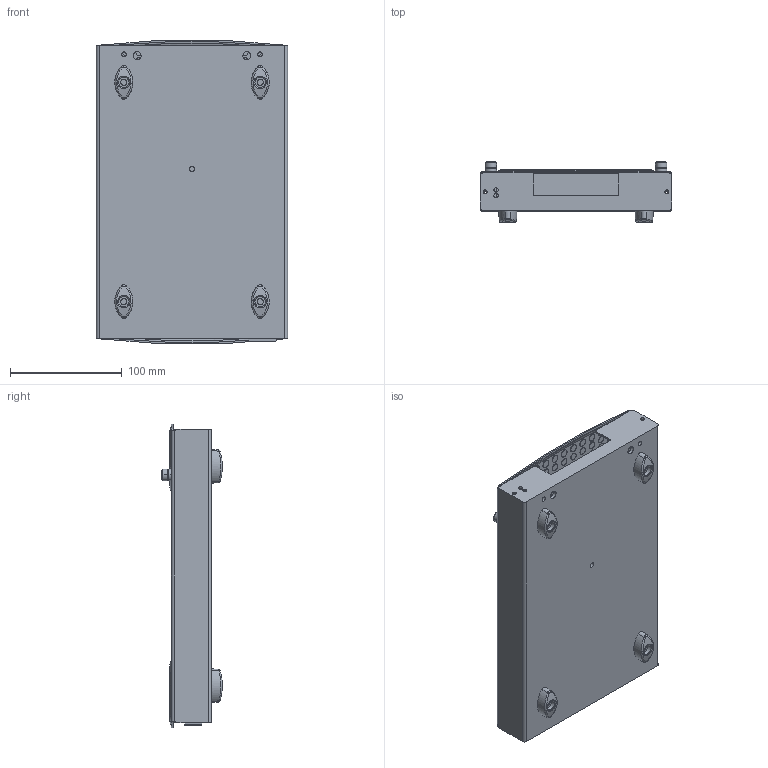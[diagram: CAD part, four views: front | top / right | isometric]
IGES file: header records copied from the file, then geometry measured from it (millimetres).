
Start section:  PTC IGES file: cu_assy_m-series_daqp_sw0002.igs
Global section: file name: cu_assy_m-series_daqp_sw0002.igs; native system: Pro/ENGINEER by Parametric Technology Corporation; preprocessor: 2006080; author: scarrasc; organization: Unknown; date: 071112.160459; units: inch
Bounding box: 170.94 x 54.1 x 271.57 mm (x, y, z)
Surface area: 254025.7 mm2 (no closed solid volume)
Topology: 0 solids, 0 shells, 1188 faces, 5400 edges, 5400 vertices
Faces by surface type: revolution 738, bspline 442, extrusion 8
